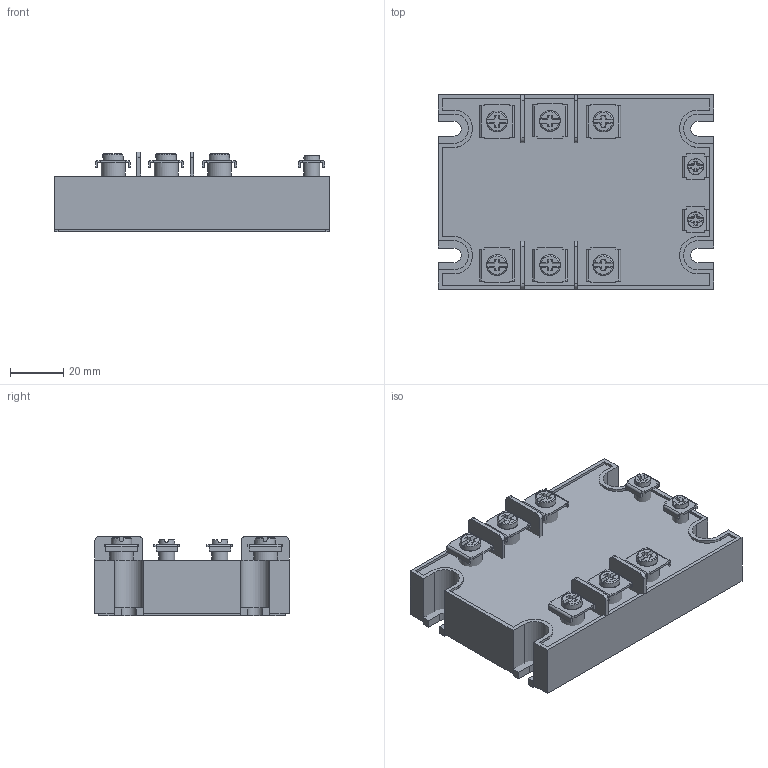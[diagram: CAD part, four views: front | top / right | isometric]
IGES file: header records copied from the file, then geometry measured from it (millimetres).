
Global section: file name: Filename.iges; native system: Open CASCADE 7.3; preprocessor: Open CASCADE IGES processor 7.3; date: 20201105.091530; units: millimetre
Bounding box: 103.5 x 73 x 30 mm (x, y, z)
Surface area: 61702.3 mm2 (no closed solid volume)
Topology: 0 solids, 0 shells, 692 faces, 7456 edges, 17962 vertices
Faces by surface type: plane 538, revolution 154
